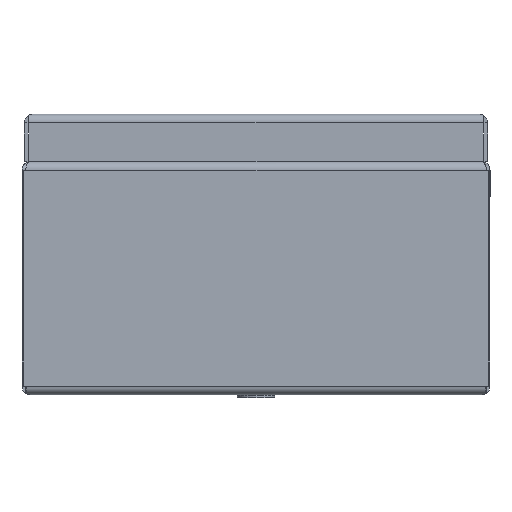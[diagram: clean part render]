
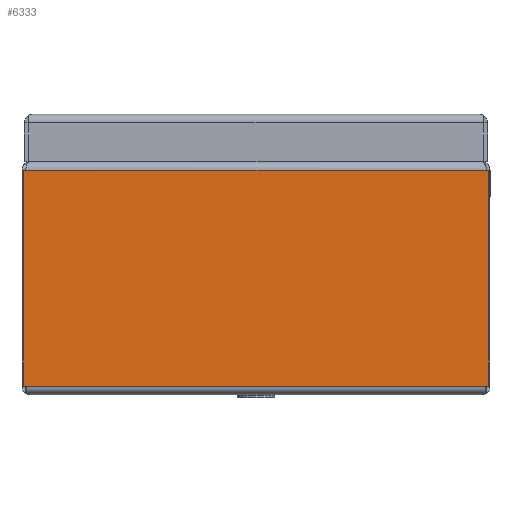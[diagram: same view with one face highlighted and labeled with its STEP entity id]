
A CAD part, left-side view. The second image highlights one B-rep face of the part: STEP entity #6333.
In plain terms, the highlighted planar face has unit normal (-1, 0, 0).
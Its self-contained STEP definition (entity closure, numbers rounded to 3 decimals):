
#187=B_SPLINE_CURVE_WITH_KNOTS('',3,(#10815,#10816,#10817,#10818),
 .UNSPECIFIED.,.F.,.F.,(4,4),(0.002,0.003),
 .UNSPECIFIED.);
#690=LINE('',#10779,#1298);
#695=LINE('',#10789,#1303);
#723=LINE('',#10932,#1331);
#724=LINE('',#10958,#1332);
#728=LINE('',#10976,#1336);
#730=LINE('',#10979,#1338);
#732=LINE('',#10983,#1340);
#1298=VECTOR('',#8597,1000.);
#1303=VECTOR('',#8612,1000.);
#1331=VECTOR('',#8678,1000.);
#1332=VECTOR('',#8681,1000.);
#1336=VECTOR('',#8689,1000.);
#1338=VECTOR('',#8693,1000.);
#1340=VECTOR('',#8699,1000.);
#2561=ORIENTED_EDGE('',*,*,#3852,.F.);
#2562=ORIENTED_EDGE('',*,*,#3801,.F.);
#2563=ORIENTED_EDGE('',*,*,#3796,.F.);
#2564=ORIENTED_EDGE('',*,*,#3850,.F.);
#2565=ORIENTED_EDGE('',*,*,#3848,.F.);
#2566=ORIENTED_EDGE('',*,*,#3842,.T.);
#2567=ORIENTED_EDGE('',*,*,#3840,.T.);
#2568=ORIENTED_EDGE('',*,*,#3807,.F.);
#3796=EDGE_CURVE('',#4512,#4509,#690,.T.);
#3801=EDGE_CURVE('',#4509,#4513,#695,.T.);
#3807=EDGE_CURVE('',#4518,#4515,#187,.F.);
#3840=EDGE_CURVE('',#4535,#4515,#723,.T.);
#3842=EDGE_CURVE('',#4537,#4535,#724,.T.);
#3848=EDGE_CURVE('',#4537,#4539,#728,.T.);
#3850=EDGE_CURVE('',#4539,#4512,#730,.T.);
#3852=EDGE_CURVE('',#4513,#4518,#732,.T.);
#4509=VERTEX_POINT('',#10772);
#4512=VERTEX_POINT('',#10778);
#4513=VERTEX_POINT('',#10790);
#4515=VERTEX_POINT('',#10806);
#4518=VERTEX_POINT('',#10814);
#4535=VERTEX_POINT('',#10923);
#4537=VERTEX_POINT('',#10959);
#4539=VERTEX_POINT('',#10973);
#5188=EDGE_LOOP('',(#2561,#2562,#2563,#2564,#2565,#2566,#2567,#2568));
#5644=FACE_BOUND('',#5188,.T.);
#6018=PLANE('',#7440);
#6333=ADVANCED_FACE('',(#5644),#6018,.T.);
#7440=AXIS2_PLACEMENT_3D('',#10984,#8700,#8701);
#8597=DIRECTION('',(0.,1.,0.));
#8612=DIRECTION('',(0.,1.,0.));
#8678=DIRECTION('',(0.,1.,0.));
#8681=DIRECTION('',(0.,1.,0.));
#8689=DIRECTION('',(0.,0.,-1.));
#8693=DIRECTION('',(0.,1.,0.));
#8699=DIRECTION('',(0.,0.,1.));
#8700=DIRECTION('',(-1.,0.,0.));
#8701=DIRECTION('',(0.,0.,1.));
#10772=CARTESIAN_POINT('',(-75.,73.599,1.6));
#10778=CARTESIAN_POINT('',(-75.,-73.599,1.6));
#10779=CARTESIAN_POINT('',(-75.,-509.6,1.6));
#10789=CARTESIAN_POINT('',(-75.,-509.6,1.6));
#10790=CARTESIAN_POINT('',(-75.,74.604,1.6));
#10806=CARTESIAN_POINT('',(-75.,73.797,70.8));
#10814=CARTESIAN_POINT('',(-75.,74.604,70.8));
#10815=CARTESIAN_POINT('',(-75.,73.797,70.8));
#10816=CARTESIAN_POINT('',(-75.,74.066,70.8));
#10817=CARTESIAN_POINT('',(-75.,74.335,70.8));
#10818=CARTESIAN_POINT('',(-75.,74.604,70.8));
#10923=CARTESIAN_POINT('',(-75.,-73.797,70.8));
#10932=CARTESIAN_POINT('',(-75.,-509.6,70.8));
#10958=CARTESIAN_POINT('',(-75.,-509.6,70.8));
#10959=CARTESIAN_POINT('',(-75.,-74.604,70.8));
#10973=CARTESIAN_POINT('',(-75.,-74.604,1.6));
#10976=CARTESIAN_POINT('',(-75.,-74.604,-1.2));
#10979=CARTESIAN_POINT('',(-75.,-509.6,1.6));
#10983=CARTESIAN_POINT('',(-75.,74.604,-1.2));
#10984=CARTESIAN_POINT('',(-75.,-509.6,-1.2));
